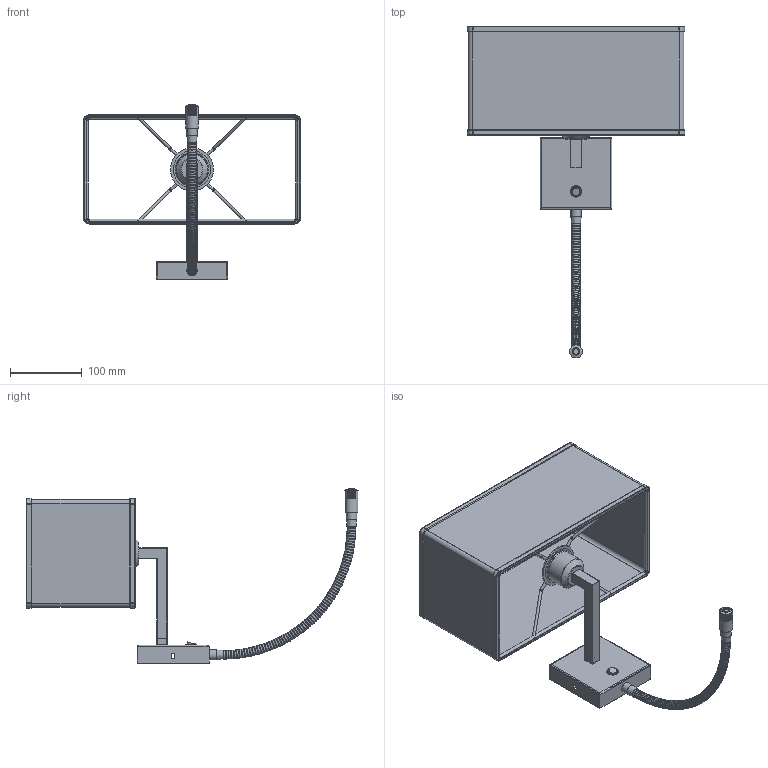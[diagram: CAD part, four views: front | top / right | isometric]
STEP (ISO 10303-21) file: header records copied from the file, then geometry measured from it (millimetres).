
FILE_DESCRIPTION( ( 'STEP AP203' ), '1' );
FILE_NAME( '//srvbf/BF Disegni/QI/APPLIQUE QILED/QILED 3D.stl.stp', '2020-10-22T08:13:42', ( ' ' ), ( ' ' ), 'XStep 1.0', ' ', ' ' );
FILE_SCHEMA( ( 'CONFIG_CONTROL_DESIGN) ( )' ) );
Length unit declared in the file: metre
Products named in the file (102): Assem1; 1; 2; 3; 4; 5; 6; 7; 8; 9; 10; 11; 12; 13; 14; 15; 16; 17; 18; 19; 20; 21; 22; 23; 24; 25; 26; 27; 28; 29; 30; 31; 32; 33; 34; 35; 36; 37; 38; 39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
Bounding box: 302 x 461.57 x 242.12 mm (x, y, z)
Volume: 643256.8 mm3; surface area: 998679.6 mm2
Topology: 202 solids, 202 shells, 1434 faces, 2608 edges, 1584 vertices
Faces by surface type: plane 618, cylinder 366, torus 264, cone 182, bspline 2, sphere 2
Full cylindrical faces by diameter (mm): 4 x40, 8 x2, 9 x42, 10 x10, 10.985 x22, 11.503 x2, 12 x2, 14.2 x6, 14.985 x26, 15 x2, 16 x2, 18 x2, 18.143 x2, 40 x4, 43 x2, 45 x2, 52 x2, 60 x4
Entity records: 20857 total; most frequent: DIRECTION 3276, CARTESIAN_POINT 2709, ORIENTED_EDGE 2026, AXIS2_PLACEMENT_3D 1447, EDGE_LOOP 1043, EDGE_CURVE 1013, FACE_OUTER_BOUND 905, VERTEX_POINT 780
